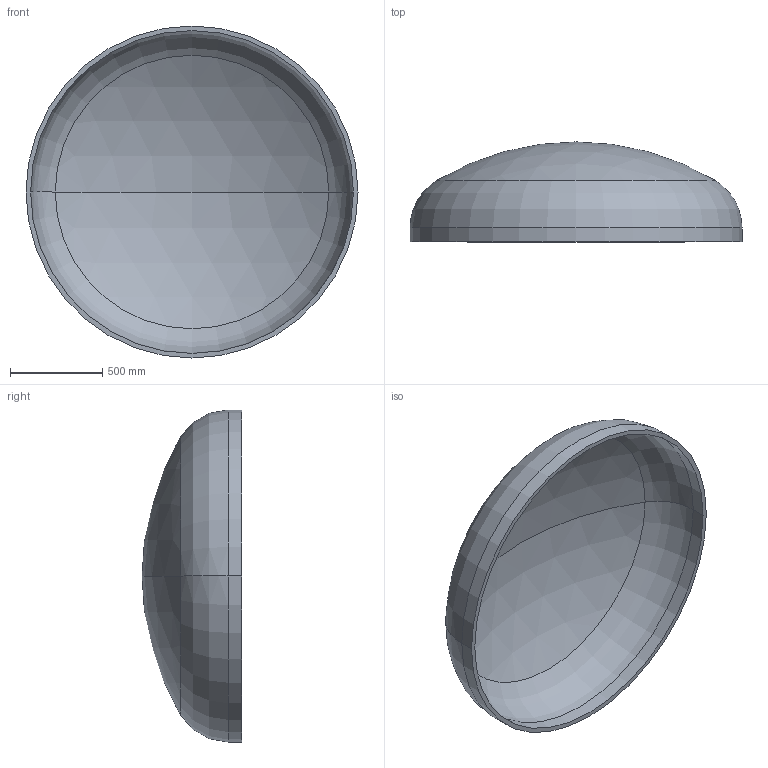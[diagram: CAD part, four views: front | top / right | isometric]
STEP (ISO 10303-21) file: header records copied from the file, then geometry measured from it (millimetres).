
FILE_DESCRIPTION (( 'STEP AP203' ), '1' );
FILE_NAME ('DIN 28013 Korbbogenform_-_Boden DIN 28013 - 1800 x 75 - I - s=25.step', '2016-07-01T12:23:14', ( '' ), ( '' ), 'SwSTEP 2.0', 'SolidWorks 2013', '' );
FILE_SCHEMA (( 'CONFIG_CONTROL_DESIGN' ));
Length unit declared in the file: millimetre
Products named in the file (1): DIN 28013 Korbbogenform_-_Boden DIN 28013 - 1800 x 75 - I - s=25
Bounding box: 1800 x 541.39 x 1800 mm (x, y, z)
Volume: 96827138.1 mm3; surface area: 7886885.5 mm2
Topology: 1 solids, 1 shells, 13 faces, 24 edges, 14 vertices
Faces by surface type: torus 4, cylinder 4, sphere 4, plane 1
Entity records: 407 total; most frequent: DIRECTION 72, CARTESIAN_POINT 52, ORIENTED_EDGE 48, AXIS2_PLACEMENT_3D 34, EDGE_CURVE 24, CIRCLE 20, EDGE_LOOP 14, VERTEX_POINT 14
